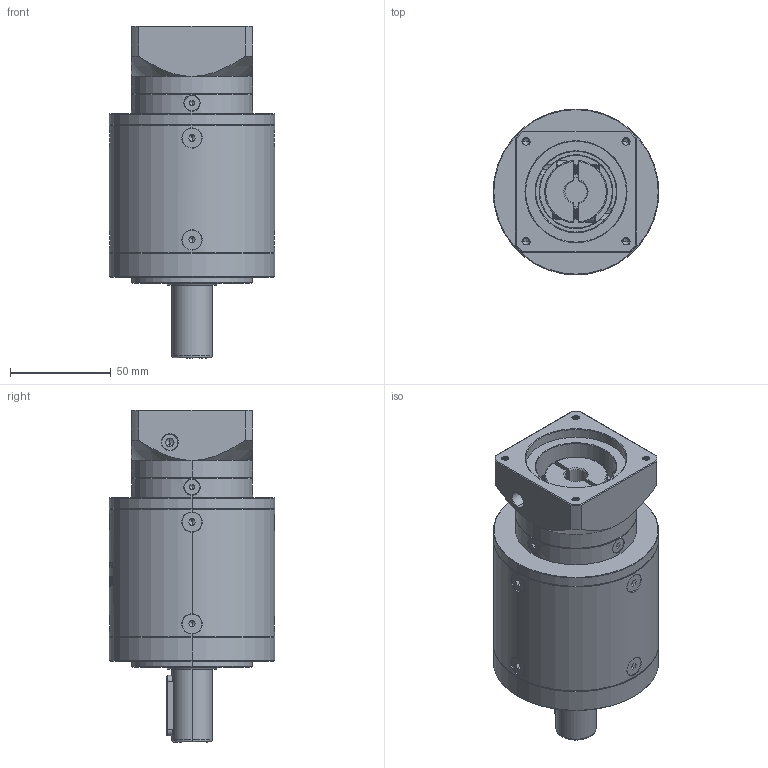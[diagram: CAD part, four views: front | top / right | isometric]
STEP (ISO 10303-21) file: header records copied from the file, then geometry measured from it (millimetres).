
FILE_DESCRIPTION (( 'STEP AP214' ), '1' );
FILE_NAME ('ZE80-D20-L3-11-50-70-M4.step', '2022-05-08T06:00:56', ( '' ), ( 'Microsoft' ), 'SwSTEP 2.0', 'SolidWorks 2016', '' );
FILE_SCHEMA (( 'AUTOMOTIVE_DESIGN' ));
Length unit declared in the file: millimetre
Products named in the file (1): ZE80-D20-L3-11-50-70-M4
Bounding box: 82 x 82 x 164.5 mm (x, y, z)
Volume: 546941.9 mm3; surface area: 69113 mm2
Topology: 18 solids, 18 shells, 2095 faces, 5511 edges, 3507 vertices
Faces by surface type: plane 943, cylinder 485, bspline 340, cone 313, torus 14
Entity records: 116365 total; most frequent: CARTESIAN_POINT 45725, ORIENTED_EDGE 10930, DIRECTION 8515, EDGE_CURVE 5465, VERTEX_POINT 3507, LINE 2905, VECTOR 2905, AXIS2_PLACEMENT_3D 2805
